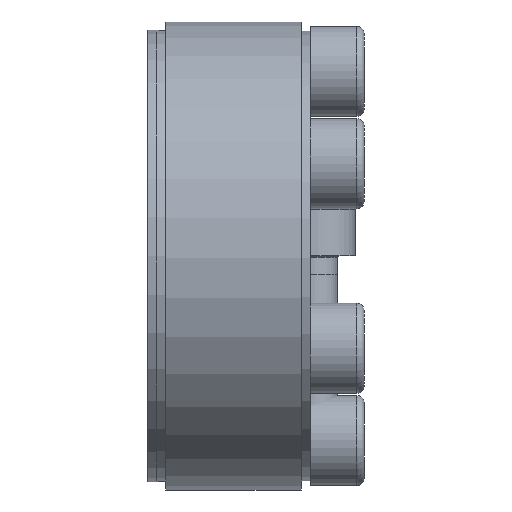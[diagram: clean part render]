
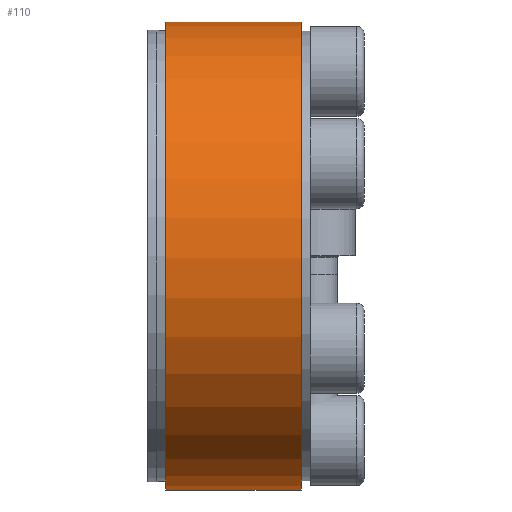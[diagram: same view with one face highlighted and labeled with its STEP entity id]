
A CAD part, left-side view. The second image highlights one B-rep face of the part: STEP entity #110.
In plain terms, the highlighted cylindrical face has radius 26 mm (diameter 52 mm), a partial arc.
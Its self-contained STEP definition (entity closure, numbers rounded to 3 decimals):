
#110 = ADVANCED_FACE( '', ( #232 ), #233, .T. );
#232 = FACE_OUTER_BOUND( '', #358, .T. );
#233 = CYLINDRICAL_SURFACE( '', #359, 26. );
#358 = EDGE_LOOP( '', ( #606, #607, #608, #609 ) );
#359 = AXIS2_PLACEMENT_3D( '', #610, #611, #612 );
#606 = ORIENTED_EDGE( '', *, *, #726, .F. );
#607 = ORIENTED_EDGE( '', *, *, #769, .T. );
#608 = ORIENTED_EDGE( '', *, *, #754, .T. );
#609 = ORIENTED_EDGE( '', *, *, #764, .F. );
#610 = CARTESIAN_POINT( '', ( 0., -60., 0. ) );
#611 = DIRECTION( '', ( 0., 1., 0. ) );
#612 = DIRECTION( '', ( 0., 0., -1. ) );
#726 = EDGE_CURVE( '', #887, #888, #889, .T. );
#754 = EDGE_CURVE( '', #919, #931, #933, .T. );
#764 = EDGE_CURVE( '', #888, #931, #949, .T. );
#769 = EDGE_CURVE( '', #887, #919, #955, .T. );
#887 = VERTEX_POINT( '', #1170 );
#888 = VERTEX_POINT( '', #1171 );
#889 = LINE( '', #1172, #1173 );
#919 = VERTEX_POINT( '', #1217 );
#931 = VERTEX_POINT( '', #1236 );
#933 = LINE( '', #1239, #1240 );
#949 = CIRCLE( '', #1256, 26. );
#955 = CIRCLE( '', #1262, 26. );
#1170 = CARTESIAN_POINT( '', ( 12.345, 16., 22.882 ) );
#1171 = CARTESIAN_POINT( '', ( 12.345, 1., 22.882 ) );
#1172 = CARTESIAN_POINT( '', ( 12.345, -60., 22.882 ) );
#1173 = VECTOR( '', #1351, 1000. );
#1217 = CARTESIAN_POINT( '', ( 13.644, 16., 22.132 ) );
#1236 = CARTESIAN_POINT( '', ( 13.644, 1., 22.132 ) );
#1239 = CARTESIAN_POINT( '', ( 13.644, -60., 22.132 ) );
#1240 = VECTOR( '', #1383, 1000. );
#1256 = AXIS2_PLACEMENT_3D( '', #1402, #1403, #1404 );
#1262 = AXIS2_PLACEMENT_3D( '', #1411, #1412, #1413 );
#1351 = DIRECTION( '', ( 0., -1., 0. ) );
#1383 = DIRECTION( '', ( 0., -1., 0. ) );
#1402 = CARTESIAN_POINT( '', ( 0., 1., 0. ) );
#1403 = DIRECTION( '', ( 0., -1., 0. ) );
#1404 = DIRECTION( '', ( 0., 0., -1. ) );
#1411 = CARTESIAN_POINT( '', ( 0., 16., 0. ) );
#1412 = DIRECTION( '', ( 0., -1., 0. ) );
#1413 = DIRECTION( '', ( 0., 0., -1. ) );
